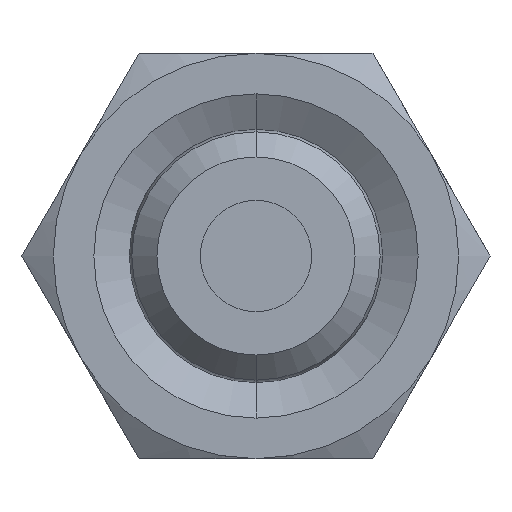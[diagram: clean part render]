
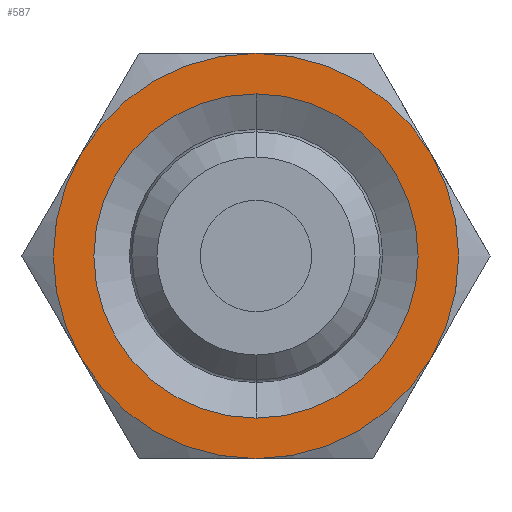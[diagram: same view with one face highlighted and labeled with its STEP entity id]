
A CAD part, front view. The second image highlights one B-rep face of the part: STEP entity #587.
In plain terms, the highlighted planar face has unit normal (0, -1, 0).
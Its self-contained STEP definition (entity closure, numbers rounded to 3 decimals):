
#241 = CIRCLE ( 'NONE', #464, 3.2 ) ;
#248 = CIRCLE ( 'NONE', #466, 3.999 ) ;
#412 = VERTEX_POINT ( 'NONE', #2452 ) ;
#464 = AXIS2_PLACEMENT_3D ( 'NONE', #2479, #2478, #2477 ) ;
#466 = AXIS2_PLACEMENT_3D ( 'NONE', #2465, #2463, #2459 ) ;
#548 = EDGE_CURVE ( 'NONE', #412, #949, #241, .T. ) ;
#552 = EDGE_CURVE ( 'NONE', #951, #952, #248, .T. ) ;
#587 = ADVANCED_FACE ( 'NONE', ( #1093, #1097 ), #2063, .T. ) ;
#641 = ORIENTED_EDGE ( 'NONE', *, *, #552, .T. ) ;
#642 = ORIENTED_EDGE ( 'NONE', *, *, #1623, .T. ) ;
#643 = ORIENTED_EDGE ( 'NONE', *, *, #1624, .F. ) ;
#644 = ORIENTED_EDGE ( 'NONE', *, *, #548, .F. ) ;
#766 = CIRCLE ( 'NONE', #930, 3.2 ) ;
#768 = CIRCLE ( 'NONE', #929, 3.999 ) ;
#929 = AXIS2_PLACEMENT_3D ( 'NONE', #1310, #1307, #1172 ) ;
#930 = AXIS2_PLACEMENT_3D ( 'NONE', #1146, #1159, #1176 ) ;
#949 = VERTEX_POINT ( 'NONE', #1705 ) ;
#951 = VERTEX_POINT ( 'NONE', #2006 ) ;
#952 = VERTEX_POINT ( 'NONE', #1733 ) ;
#988 = EDGE_LOOP ( 'NONE', ( #643, #644 ) ) ;
#1008 = EDGE_LOOP ( 'NONE', ( #641, #642 ) ) ;
#1093 = FACE_OUTER_BOUND ( 'NONE', #1008, .T. ) ;
#1097 = FACE_BOUND ( 'NONE', #988, .T. ) ;
#1146 = CARTESIAN_POINT ( 'NONE',  ( 0., 4., 0. ) ) ;
#1159 = DIRECTION ( 'NONE',  ( 0., -1., 0. ) ) ;
#1172 = DIRECTION ( 'NONE',  ( 0., 0., -1. ) ) ;
#1176 = DIRECTION ( 'NONE',  ( 0., 0., -1. ) ) ;
#1307 = DIRECTION ( 'NONE',  ( 0., -1., 0. ) ) ;
#1310 = CARTESIAN_POINT ( 'NONE',  ( 0., 4., 0. ) ) ;
#1492 = AXIS2_PLACEMENT_3D ( 'NONE', #2056, #2055, #2054 ) ;
#1623 = EDGE_CURVE ( 'NONE', #952, #951, #768, .T. ) ;
#1624 = EDGE_CURVE ( 'NONE', #949, #412, #766, .T. ) ;
#1705 = CARTESIAN_POINT ( 'NONE',  ( 0., 4., -3.2 ) ) ;
#1733 = CARTESIAN_POINT ( 'NONE',  ( 0., 4., 3.999 ) ) ;
#2006 = CARTESIAN_POINT ( 'NONE',  ( 0., 4., -3.999 ) ) ;
#2054 = DIRECTION ( 'NONE',  ( 0., 0., -1. ) ) ;
#2055 = DIRECTION ( 'NONE',  ( 0., -1., 0. ) ) ;
#2056 = CARTESIAN_POINT ( 'NONE',  ( 3.2, 4., 0. ) ) ;
#2063 = PLANE ( 'NONE',  #1492 ) ;
#2452 = CARTESIAN_POINT ( 'NONE',  ( 0., 4., 3.2 ) ) ;
#2459 = DIRECTION ( 'NONE',  ( 0., 0., -1. ) ) ;
#2463 = DIRECTION ( 'NONE',  ( 0., -1., 0. ) ) ;
#2465 = CARTESIAN_POINT ( 'NONE',  ( 0., 4., 0. ) ) ;
#2477 = DIRECTION ( 'NONE',  ( 0., 0., -1. ) ) ;
#2478 = DIRECTION ( 'NONE',  ( 0., -1., 0. ) ) ;
#2479 = CARTESIAN_POINT ( 'NONE',  ( 0., 4., 0. ) ) ;
